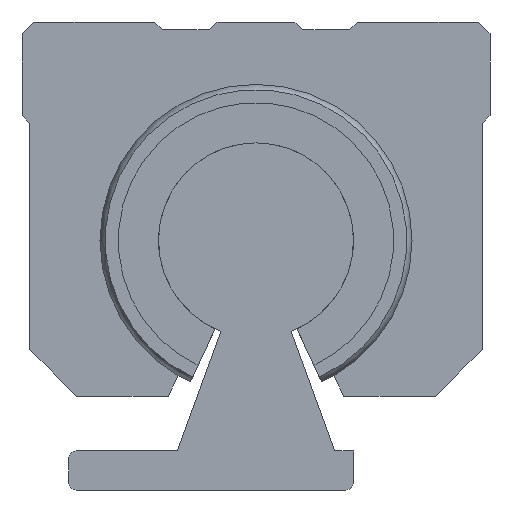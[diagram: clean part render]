
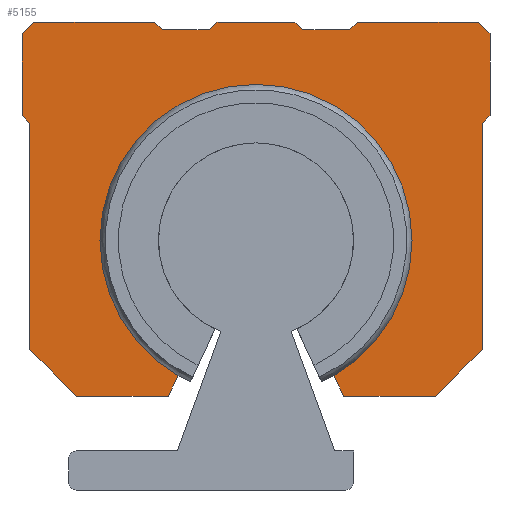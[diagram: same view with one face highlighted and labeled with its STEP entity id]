
A CAD part, left-side view. The second image highlights one B-rep face of the part: STEP entity #5155.
In plain terms, the highlighted planar face has unit normal (-1, 0, 0).
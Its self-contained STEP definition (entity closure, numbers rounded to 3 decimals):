
#3922=CARTESIAN_POINT('',(269.875,-10.0,14.679));
#3923=VERTEX_POINT('',#3922);
#3930=CARTESIAN_POINT('',(269.875,10.0,14.679));
#3931=VERTEX_POINT('',#3930);
#3932=CARTESIAN_POINT('',(269.875,0.0,32.0));
#3933=DIRECTION('',(-1.0,0.0,0.0));
#3934=DIRECTION('',(0.0,-1.0,0.0));
#3935=AXIS2_PLACEMENT_3D('',#3932,#3933,#3934);
#3936=CIRCLE('',#3935,20.0);
#3937=EDGE_CURVE('',#3923,#3931,#3936,.T.);
#4105=CARTESIAN_POINT('',(269.875,-29.,18.));
#4106=VERTEX_POINT('',#4105);
#4113=CARTESIAN_POINT('',(269.875,-23.,12.));
#4114=VERTEX_POINT('',#4113);
#4115=CARTESIAN_POINT('',(269.875,-29.,18.));
#4116=DIRECTION('',(0.0,0.707,-0.707));
#4117=VECTOR('',#4116,8.485);
#4118=LINE('',#4115,#4117);
#4119=EDGE_CURVE('',#4106,#4114,#4118,.T.);
#4144=CARTESIAN_POINT('',(269.875,-29.,47.0));
#4145=VERTEX_POINT('',#4144);
#4152=CARTESIAN_POINT('',(269.875,-29.,47.0));
#4153=DIRECTION('',(0.0,0.0,-1.0));
#4154=VECTOR('',#4153,29.);
#4155=LINE('',#4152,#4154);
#4156=EDGE_CURVE('',#4145,#4106,#4155,.T.);
#4342=CARTESIAN_POINT('',(269.875,23.,12.));
#4343=VERTEX_POINT('',#4342);
#4350=CARTESIAN_POINT('',(269.875,29.,18.));
#4351=VERTEX_POINT('',#4350);
#4352=CARTESIAN_POINT('',(269.875,23.,12.));
#4353=DIRECTION('',(0.0,0.707,0.707));
#4354=VECTOR('',#4353,8.485);
#4355=LINE('',#4352,#4354);
#4356=EDGE_CURVE('',#4343,#4351,#4355,.T.);
#4374=CARTESIAN_POINT('',(269.875,11.249,12.));
#4375=VERTEX_POINT('',#4374);
#4382=CARTESIAN_POINT('',(269.875,11.249,12.));
#4383=DIRECTION('',(0.0,1.0,0.0));
#4384=VECTOR('',#4383,11.751);
#4385=LINE('',#4382,#4384);
#4386=EDGE_CURVE('',#4375,#4343,#4385,.T.);
#4396=CARTESIAN_POINT('',(269.875,-5.,60.0));
#4397=VERTEX_POINT('',#4396);
#4398=CARTESIAN_POINT('',(269.875,-6.,59.0));
#4399=VERTEX_POINT('',#4398);
#4400=CARTESIAN_POINT('',(269.875,-5.,60.0));
#4401=DIRECTION('',(0.0,-0.707,-0.707));
#4402=VECTOR('',#4401,1.414);
#4403=LINE('',#4400,#4402);
#4404=EDGE_CURVE('',#4397,#4399,#4403,.T.);
#4428=CARTESIAN_POINT('',(269.875,-12.,59.0));
#4429=VERTEX_POINT('',#4428);
#4430=CARTESIAN_POINT('',(269.875,-6.,59.0));
#4431=DIRECTION('',(0.0,-1.0,0.0));
#4432=VECTOR('',#4431,6.);
#4433=LINE('',#4430,#4432);
#4434=EDGE_CURVE('',#4399,#4429,#4433,.T.);
#4451=CARTESIAN_POINT('',(269.875,13.,60.0));
#4452=VERTEX_POINT('',#4451);
#4453=CARTESIAN_POINT('',(269.875,12.,59.0));
#4454=VERTEX_POINT('',#4453);
#4455=CARTESIAN_POINT('',(269.875,13.,60.0));
#4456=DIRECTION('',(0.0,-0.707,-0.707));
#4457=VECTOR('',#4456,1.414);
#4458=LINE('',#4455,#4457);
#4459=EDGE_CURVE('',#4452,#4454,#4458,.T.);
#4483=CARTESIAN_POINT('',(269.875,6.,59.0));
#4484=VERTEX_POINT('',#4483);
#4485=CARTESIAN_POINT('',(269.875,12.,59.0));
#4486=DIRECTION('',(0.0,-1.0,0.0));
#4487=VECTOR('',#4486,6.0);
#4488=LINE('',#4485,#4487);
#4489=EDGE_CURVE('',#4454,#4484,#4488,.T.);
#4506=CARTESIAN_POINT('',(269.875,5.,60.0));
#4507=VERTEX_POINT('',#4506);
#4508=CARTESIAN_POINT('',(269.875,6.,59.0));
#4509=DIRECTION('',(0.0,-0.707,0.707));
#4510=VECTOR('',#4509,1.414);
#4511=LINE('',#4508,#4510);
#4512=EDGE_CURVE('',#4484,#4507,#4511,.T.);
#4530=CARTESIAN_POINT('',(269.875,-13.,60.0));
#4531=VERTEX_POINT('',#4530);
#4532=CARTESIAN_POINT('',(269.875,-12.,59.0));
#4533=DIRECTION('',(0.0,-0.707,0.707));
#4534=VECTOR('',#4533,1.414);
#4535=LINE('',#4532,#4534);
#4536=EDGE_CURVE('',#4429,#4531,#4535,.T.);
#4554=CARTESIAN_POINT('',(269.875,29.,47.0));
#4555=VERTEX_POINT('',#4554);
#4556=CARTESIAN_POINT('',(269.875,30.0,48.));
#4557=VERTEX_POINT('',#4556);
#4558=CARTESIAN_POINT('',(269.875,29.,47.0));
#4559=DIRECTION('',(0.0,0.707,0.707));
#4560=VECTOR('',#4559,1.414);
#4561=LINE('',#4558,#4560);
#4562=EDGE_CURVE('',#4555,#4557,#4561,.T.);
#4585=CARTESIAN_POINT('',(269.875,-30.0,48.));
#4586=VERTEX_POINT('',#4585);
#4587=CARTESIAN_POINT('',(269.875,-30.0,48.));
#4588=DIRECTION('',(0.0,0.707,-0.707));
#4589=VECTOR('',#4588,1.414);
#4590=LINE('',#4587,#4589);
#4591=EDGE_CURVE('',#4586,#4145,#4590,.T.);
#4610=CARTESIAN_POINT('',(269.875,30.0,58.5));
#4611=VERTEX_POINT('',#4610);
#4618=CARTESIAN_POINT('',(269.875,28.5,60.0));
#4619=VERTEX_POINT('',#4618);
#4620=CARTESIAN_POINT('',(269.875,30.0,58.5));
#4621=DIRECTION('',(0.0,-0.707,0.707));
#4622=VECTOR('',#4621,2.121);
#4623=LINE('',#4620,#4622);
#4624=EDGE_CURVE('',#4611,#4619,#4623,.T.);
#4643=CARTESIAN_POINT('',(269.875,30.0,48.));
#4644=DIRECTION('',(0.0,0.0,1.0));
#4645=VECTOR('',#4644,10.5);
#4646=LINE('',#4643,#4645);
#4647=EDGE_CURVE('',#4557,#4611,#4646,.T.);
#4658=CARTESIAN_POINT('',(269.875,-28.5,60.0));
#4659=VERTEX_POINT('',#4658);
#4666=CARTESIAN_POINT('',(269.875,-30.0,58.5));
#4667=VERTEX_POINT('',#4666);
#4668=CARTESIAN_POINT('',(269.875,-28.5,60.0));
#4669=DIRECTION('',(0.0,-0.707,-0.707));
#4670=VECTOR('',#4669,2.121);
#4671=LINE('',#4668,#4670);
#4672=EDGE_CURVE('',#4659,#4667,#4671,.T.);
#4691=CARTESIAN_POINT('',(269.875,-13.,60.0));
#4692=DIRECTION('',(0.0,-1.0,0.0));
#4693=VECTOR('',#4692,15.5);
#4694=LINE('',#4691,#4693);
#4695=EDGE_CURVE('',#4531,#4659,#4694,.T.);
#5028=CARTESIAN_POINT('',(269.875,29.,18.));
#5029=DIRECTION('',(0.0,0.0,1.0));
#5030=VECTOR('',#5029,29.);
#5031=LINE('',#5028,#5030);
#5032=EDGE_CURVE('',#4351,#4555,#5031,.T.);
#5052=CARTESIAN_POINT('',(269.875,10.0,14.679));
#5053=DIRECTION('',(0.0,0.423,-0.906));
#5054=VECTOR('',#5053,2.956);
#5055=LINE('',#5052,#5054);
#5056=EDGE_CURVE('',#3931,#4375,#5055,.T.);
#5068=CARTESIAN_POINT('',(269.875,-11.249,12.));
#5069=VERTEX_POINT('',#5068);
#5076=CARTESIAN_POINT('',(269.875,-11.249,12.));
#5077=DIRECTION('',(0.0,0.423,0.906));
#5078=VECTOR('',#5077,2.956);
#5079=LINE('',#5076,#5078);
#5080=EDGE_CURVE('',#5069,#3923,#5079,.T.);
#5098=CARTESIAN_POINT('',(269.875,-23.,12.));
#5099=DIRECTION('',(0.0,1.0,0.0));
#5100=VECTOR('',#5099,11.751);
#5101=LINE('',#5098,#5100);
#5102=EDGE_CURVE('',#4114,#5069,#5101,.T.);
#5109=CARTESIAN_POINT('',(269.875,0.0,36.472));
#5110=DIRECTION('',(1.0,0.0,0.0));
#5111=DIRECTION('',(0.0,0.0,-1.0));
#5112=AXIS2_PLACEMENT_3D('',#5109,#5110,#5111);
#5113=PLANE('',#5112);
#5114=ORIENTED_EDGE('',*,*,#4119,.F.);
#5115=ORIENTED_EDGE('',*,*,#4156,.F.);
#5116=ORIENTED_EDGE('',*,*,#4591,.F.);
#5117=CARTESIAN_POINT('',(269.875,-30.0,58.5));
#5118=DIRECTION('',(0.0,0.0,-1.0));
#5119=VECTOR('',#5118,10.5);
#5120=LINE('',#5117,#5119);
#5121=EDGE_CURVE('',#4667,#4586,#5120,.T.);
#5122=ORIENTED_EDGE('',*,*,#5121,.F.);
#5123=ORIENTED_EDGE('',*,*,#4672,.F.);
#5124=ORIENTED_EDGE('',*,*,#4695,.F.);
#5125=ORIENTED_EDGE('',*,*,#4536,.F.);
#5126=ORIENTED_EDGE('',*,*,#4434,.F.);
#5127=ORIENTED_EDGE('',*,*,#4404,.F.);
#5128=CARTESIAN_POINT('',(269.875,5.,60.0));
#5129=DIRECTION('',(0.0,-1.0,0.0));
#5130=VECTOR('',#5129,10.);
#5131=LINE('',#5128,#5130);
#5132=EDGE_CURVE('',#4507,#4397,#5131,.T.);
#5133=ORIENTED_EDGE('',*,*,#5132,.F.);
#5134=ORIENTED_EDGE('',*,*,#4512,.F.);
#5135=ORIENTED_EDGE('',*,*,#4489,.F.);
#5136=ORIENTED_EDGE('',*,*,#4459,.F.);
#5137=CARTESIAN_POINT('',(269.875,28.5,60.0));
#5138=DIRECTION('',(0.0,-1.0,0.0));
#5139=VECTOR('',#5138,15.5);
#5140=LINE('',#5137,#5139);
#5141=EDGE_CURVE('',#4619,#4452,#5140,.T.);
#5142=ORIENTED_EDGE('',*,*,#5141,.F.);
#5143=ORIENTED_EDGE('',*,*,#4624,.F.);
#5144=ORIENTED_EDGE('',*,*,#4647,.F.);
#5145=ORIENTED_EDGE('',*,*,#4562,.F.);
#5146=ORIENTED_EDGE('',*,*,#5032,.F.);
#5147=ORIENTED_EDGE('',*,*,#4356,.F.);
#5148=ORIENTED_EDGE('',*,*,#4386,.F.);
#5149=ORIENTED_EDGE('',*,*,#5056,.F.);
#5150=ORIENTED_EDGE('',*,*,#3937,.F.);
#5151=ORIENTED_EDGE('',*,*,#5080,.F.);
#5152=ORIENTED_EDGE('',*,*,#5102,.F.);
#5153=EDGE_LOOP('',(#5114,#5115,#5116,#5122,#5123,#5124,#5125,#5126,#5127,#5133,#5134,#5135,#5136,#5142,#5143,#5144,#5145,#5146,#5147,#5148,#5149,#5150,#5151,#5152));
#5154=FACE_OUTER_BOUND('',#5153,.T.);
#5155=ADVANCED_FACE('',(#5154),#5113,.F.);
